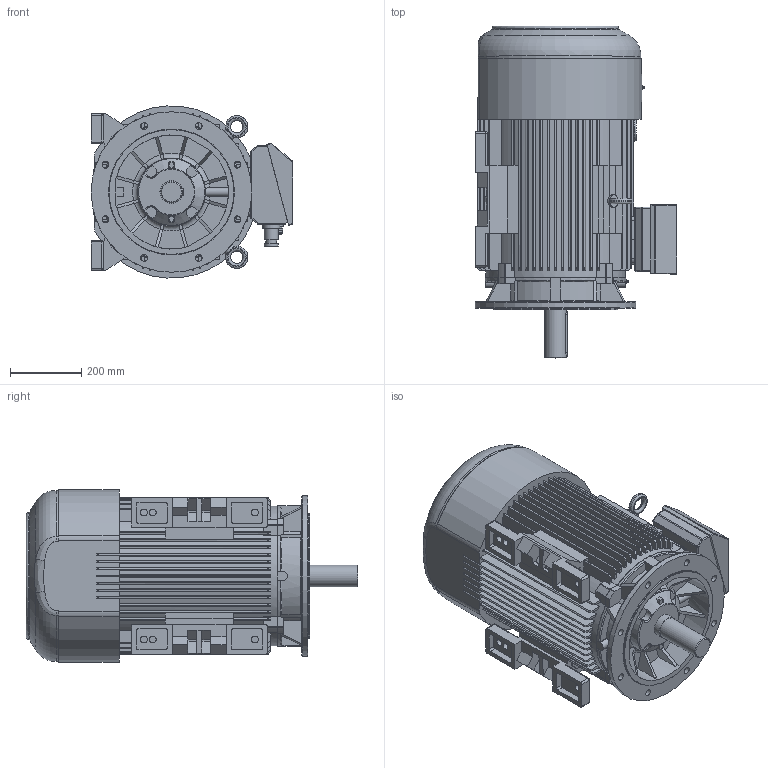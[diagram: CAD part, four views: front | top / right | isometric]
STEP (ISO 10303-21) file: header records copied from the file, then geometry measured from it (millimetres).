
FILE_DESCRIPTION(/* description */ ('Unknown'),/* implementation_level */ '2;1');
FILE_NAME(/* name */ '3SIEL225S_4, M4_8',/* time_stamp */ '2021-04-12T13:18:39+02:00',/* author */ ('Unknown'),/* organization */ ('Unknown'),/* preprocessor_version */ 'ST-DEVELOPER v16.7',/* originating_system */ 'DEX',/* authorisation */ $);
FILE_SCHEMA (('AUTOMOTIVE_DESIGN {1 0 10303 214 3 1 1}'));
Length unit declared in the file: millimetre
Products named in the file (1): 2SIEL225 S_M4_6 silnik
Bounding box: 565.05 x 930.18 x 482.33 mm (x, y, z)
Volume: 116670594.6 mm3; surface area: 3311751.3 mm2
Topology: 1 solids, 4 shells, 1025 faces, 2804 edges, 1811 vertices
Faces by surface type: plane 632, cylinder 294, torus 62, cone 16, sphere 14, bspline 7
Full cylindrical faces by diameter (mm): 1.6 x2, 5 x4, 10 x2, 16.891 x1, 19 x14, 24 x1, 26.969 x1, 30 x4, 30.249 x1, 31 x1, 35 x4, 40 x4, 47 x2, 60 x1, 64.5 x1, 188 x1, 190 x1, 349.991 x1, 449.991 x1
Entity records: 39855 total; most frequent: CARTESIAN_POINT 6724, DIRECTION 5404, ORIENTED_EDGE 5402, EDGE_CURVE 2701, AXIS2_PLACEMENT_3D 1872, VERTEX_POINT 1793, LINE 1660, VECTOR 1660
